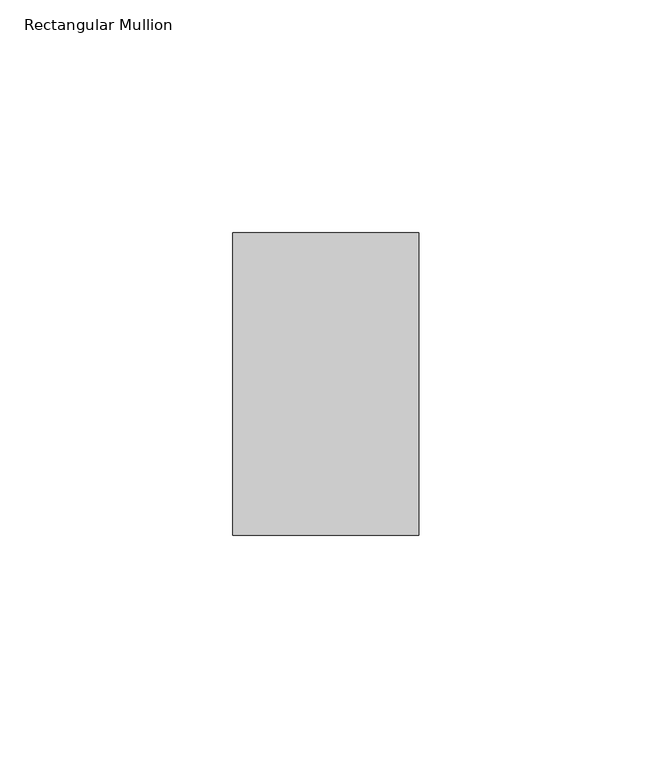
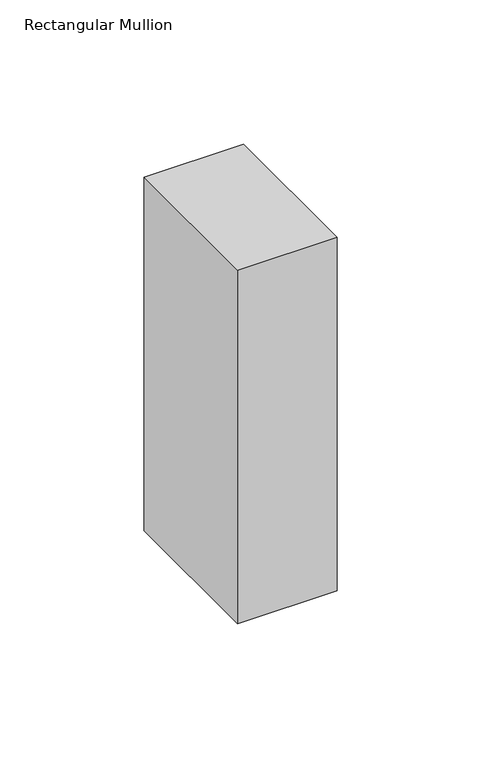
"""IFC4 building model written with IfcOpenShell, lengths in millimetres: member geometry, Rectangular Mullion : Batten_Timber_Modinex_Austratus_Grid_Fascia_40x65_AlaskanYellowCedar."""

import ifcopenshell
import ifcopenshell.guid

model = None  # the IFC model being written
_history = None  # IfcOwnerHistory: only IFC2X3 demands one
_inside = {}  # id of a spatial element -> (the spatial element, [elements in it])
_under = {}  # id of a project, library or spatial element -> (it, [spatial elements below it])
_declared = {}  # id of a project -> (the project, [libraries it declares])
_typed = {}  # id of a type object -> (the type object, [elements of that type])
_made_of = {}  # id of a material, layer set ... -> (it, [elements and type objects made of it])


def new_model(schema):
    """Start an empty IFC model of exactly this schema.

    Asked for "IFC4X3", IfcOpenShell would pick the latest addendum, in which some entities
    have other attributes; the version numbers below select the first issue.
    IFC2X3 requires an IfcOwnerHistory on every rooted entity: one is made here for all.
    """
    global model, _history
    if schema == "IFC4X3":
        model = ifcopenshell.file(schema_version=(4, 3, 0, 0))
    else:
        model = ifcopenshell.file(schema=schema)
    _inside.clear()
    _under.clear()
    _declared.clear()
    _typed.clear()
    _made_of.clear()
    _history = None
    if model.schema == "IFC2X3":
        org = make("IfcOrganization", Name="unknown")
        user = make(
            "IfcPersonAndOrganization",
            ThePerson=make("IfcPerson", FamilyName="unknown"),
            TheOrganization=org,
        )
        app = make(
            "IfcApplication",
            ApplicationDeveloper=org,
            Version="unknown",
            ApplicationFullName="unknown",
            ApplicationIdentifier="unknown",
        )
        _history = make(
            "IfcOwnerHistory",
            OwningUser=user,
            OwningApplication=app,
            ChangeAction="ADDED",
            CreationDate=0,
        )
    return model


def make(cls, **values):
    """One entity of the class cls with the attributes given. An attribute that is None is left unset."""
    return model.create_entity(
        cls, **{name: value for name, value in values.items() if value is not None}
    )


def rooted(cls, **values):
    """An entity with a GlobalId (a new one), such as an element, a storey or a relation."""
    return make(cls, GlobalId=ifcopenshell.guid.new(), OwnerHistory=_history, **values)


def si_unit(unit_type, name, prefix=None):
    """IfcSIUnit, for example si_unit("LENGTHUNIT", "METRE", prefix="MILLI")."""
    return make("IfcSIUnit", UnitType=unit_type, Prefix=prefix, Name=name)


def assignment(units):
    """IfcUnitAssignment: the units of a project."""
    return None if units is None else make("IfcUnitAssignment", Units=units)


def point(xyz):
    """IfcCartesianPoint."""
    return None if xyz is None else make("IfcCartesianPoint", Coordinates=xyz)


def direction(xyz):
    """IfcDirection."""
    return None if xyz is None else make("IfcDirection", DirectionRatios=xyz)


def frame(location, z_axis=None, x_axis=None):
    """IfcAxis2Placement3D, a coordinate frame: its origin and axes. An axis left out is left unset."""
    return make(
        "IfcAxis2Placement3D",
        Location=point(location),
        Axis=direction(z_axis),
        RefDirection=direction(x_axis),
    )


def origin():
    """The frame at (0, 0, 0) with its axes left unset."""
    return frame((0.0, 0.0, 0.0))


def place(relative_to, where):
    """IfcLocalPlacement: puts the frame where relative to a parent placement (None: the world)."""
    return make(
        "IfcLocalPlacement", PlacementRelTo=relative_to, RelativePlacement=where
    )


def context(
    kind, dimensions, precision=None, world=None, true_north=None, identifier=None
):
    """IfcGeometricRepresentationContext, for example the 3D "Model" context."""
    return make(
        "IfcGeometricRepresentationContext",
        ContextIdentifier=identifier,
        ContextType=kind,
        CoordinateSpaceDimension=dimensions,
        Precision=precision,
        WorldCoordinateSystem=world,
        TrueNorth=true_north,
    )


def project(units=None, contexts=None):
    """IfcProject with its units and contexts."""
    return rooted(
        "IfcProject",
        Name="project",
        RepresentationContexts=contexts,
        UnitsInContext=assignment(units),
    )


def spatial(cls, under=None, at=None, **own):
    """A site, building, storey or space (cls), placed at a placement, below another one or the project."""
    s = rooted(cls, ObjectPlacement=at, **own)
    if under is not None:
        _under.setdefault(under.id(), (under, []))[1].append(s)
    return s


def polyline(points):
    """IfcPolyline through the points."""
    return make("IfcPolyline", Points=[point(p) for p in points])


def outline(outer, holes=None, kind="AREA"):
    """IfcArbitraryClosedProfileDef: a profile drawn as a closed curve; with holes, ...WithVoids."""
    if holes is None:
        return make("IfcArbitraryClosedProfileDef", ProfileType=kind, OuterCurve=outer)
    return make(
        "IfcArbitraryProfileDefWithVoids",
        ProfileType=kind,
        OuterCurve=outer,
        InnerCurves=holes,
    )


def extrude(swept, where, along, depth):
    """IfcExtrudedAreaSolid: the profile swept, set in the frame where, extruded along a direction by depth."""
    return make(
        "IfcExtrudedAreaSolid",
        SweptArea=swept,
        Position=where,
        ExtrudedDirection=direction(along),
        Depth=depth,
    )


def shape(context_of_items, identifier, shape_type, items):
    """IfcShapeRepresentation: the items that make up one representation, for example the "Body"."""
    return make(
        "IfcShapeRepresentation",
        ContextOfItems=context_of_items,
        RepresentationIdentifier=identifier,
        RepresentationType=shape_type,
        Items=items,
    )


def source(mapping_origin, context_of_items, identifier, shape_type, items):
    """IfcRepresentationMap: a shape defined once, which mapped items show again and again."""
    return make(
        "IfcRepresentationMap",
        MappingOrigin=mapping_origin,
        MappedRepresentation=shape(context_of_items, identifier, shape_type, items),
    )


def transform(
    local_origin,
    x_axis=None,
    y_axis=None,
    z_axis=None,
    scale=None,
    scale2=None,
    scale3=None,
    uniform=True,
):
    """IfcCartesianTransformationOperator3D, or its non-uniform kind. x_axis, y_axis, z_axis: its Axis1, 2, 3."""
    if uniform:
        return make(
            "IfcCartesianTransformationOperator3D",
            Axis1=direction(x_axis),
            Axis2=direction(y_axis),
            LocalOrigin=point(local_origin),
            Scale=scale,
            Axis3=direction(z_axis),
        )
    return make(
        "IfcCartesianTransformationOperator3DnonUniform",
        Axis1=direction(x_axis),
        Axis2=direction(y_axis),
        LocalOrigin=point(local_origin),
        Scale=scale,
        Axis3=direction(z_axis),
        Scale2=scale2,
        Scale3=scale3,
    )


def mapped(mapping_source, mapping_target):
    """IfcMappedItem: shows the shape of a source again, moved by a transform."""
    return make(
        "IfcMappedItem", MappingSource=mapping_source, MappingTarget=mapping_target
    )


def made_of(thing, what):
    """Note that an element or type object is made of a material, layer set ...; save() writes the relation."""
    if what is not None:
        _made_of.setdefault(what.id(), (what, []))[1].append(thing)
    return thing


def element(
    cls,
    number,
    at=None,
    inside=None,
    cuts=None,
    type_object=None,
    material=None,
    context=None,
    identifier="Body",
    shape_type=None,
    held_by="IfcProductDefinitionShape",
    body=None,
    shapes=None,
    **own,
):
    """One element of the class cls, such as IfcWall. Its Tag is "e" and its number.

    at: its placement. inside: the storey or other place that contains it. cuts: it is an
    opening in that element (IfcRelVoidsElement). A single representation is given by context,
    identifier, shape_type and body (its items); several are given by shapes. held_by: the class
    of the entity that holds the representations. save() writes the other relations.
    """
    e = rooted(cls, Tag="e%d" % number, ObjectPlacement=at, **own)
    if body is not None:
        shapes = [shape(context, identifier, shape_type, body)]
    if shapes is not None:
        e.Representation = make(held_by, Representations=shapes)
    if inside is not None:
        _inside.setdefault(inside.id(), (inside, []))[1].append(e)
    if cuts is not None:
        rooted(
            "IfcRelVoidsElement", RelatingBuildingElement=cuts, RelatedOpeningElement=e
        )
    if type_object is not None:
        _typed.setdefault(type_object.id(), (type_object, []))[1].append(e)
    return made_of(e, material)


def aggregate(whole, parts):
    """IfcRelAggregates: a whole, such as a stair, and the parts it consists of."""
    return rooted("IfcRelAggregates", RelatingObject=whole, RelatedObjects=parts)


def save(model, path):
    """Write the relations noted so far, then the file.

    IfcRelAggregates (storeys below a building ...), IfcRelContainedInSpatialStructure (elements
    in a storey), IfcRelDefinesByType, IfcRelAssociatesMaterial and IfcRelDeclares: one each for
    every whole, place, type object, material and project.
    """
    for whole, parts in _under.values():
        aggregate(whole, parts)
    for where, things in _inside.values():
        rooted(
            "IfcRelContainedInSpatialStructure",
            RelatedElements=things,
            RelatingStructure=where,
        )
    for kind, things in _typed.values():
        rooted("IfcRelDefinesByType", RelatedObjects=things, RelatingType=kind)
    for what, things in _made_of.values():
        rooted("IfcRelAssociatesMaterial", RelatedObjects=things, RelatingMaterial=what)
    for by, libraries in _declared.values():
        rooted("IfcRelDeclares", RelatingContext=by, RelatedDefinitions=libraries)
    model.write(path)


def rectangular_mullion_948b1c1d(model_context):
    return source(origin(), model_context, "Body", "SweptSolid", [
        extrude(outline(polyline([(0.0, 65.0), (0.0, 0.0), (-40.0, 0.0), (-40.0, 65.0), (0.0, 65.0)])), frame((0.0, 0.0, -150.0), z_axis=(0.0, 0.0, 1.0), x_axis=(1.0, 0.0, 0.0)), (0.0, 0.0, 1.0), 150.0),
    ])


if __name__ == "__main__":
    model = new_model("IFC4")
    model_context = context("Model", 3, world=origin())
    ifc_project = project(units=[si_unit("LENGTHUNIT", "METRE", prefix="MILLI")], contexts=[model_context])
    site = spatial("IfcSite", under=ifc_project)
    building = spatial("IfcBuilding", under=site)
    placement = place(None, origin())
    rectangular_mullion_shape = rectangular_mullion_948b1c1d(model_context)
    element("IfcMember", 1, ObjectType="Rectangular Mullion : Batten_Timber_Modinex_Austratus_Grid_Fascia_40x65_AlaskanYellowCedar", at=placement, inside=building, context=model_context, shape_type="MappedRepresentation", body=[
        mapped(rectangular_mullion_shape, transform((0.0, 0.0, 0.0), x_axis=(1.0, 0.0, 0.0), y_axis=(0.0, 1.0, 0.0), z_axis=(0.0, 0.0, 1.0))),
    ])
    save(model, "model.ifc")
